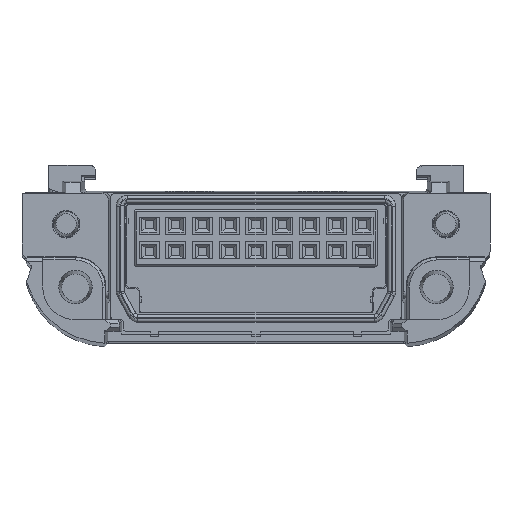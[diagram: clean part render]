
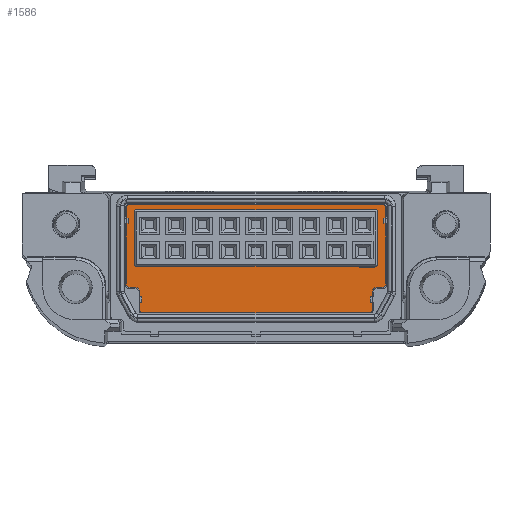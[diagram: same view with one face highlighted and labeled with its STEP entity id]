
A CAD part, top view. The second image highlights one B-rep face of the part: STEP entity #1586.
In plain terms, the highlighted planar face has unit normal (0, 0, 1) as drawn and (0, 0, -1) by its records, which use the part's own axes.
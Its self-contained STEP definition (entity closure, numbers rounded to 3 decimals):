
#1586=ADVANCED_FACE('',(#2495,#2496),#2255,.F.);
#2255=PLANE('',#13822);
#2495=FACE_BOUND('',#3100,.T.);
#2496=FACE_BOUND('',#3101,.T.);
#3100=EDGE_LOOP('',(#6142,#6143,#6144,#6145,#6146,#6147,#6148,#6149,#6150,
#6151,#6152,#6153,#6154,#6155,#6156,#6157));
#3101=EDGE_LOOP('',(#6158,#6159,#6160,#6161,#6162,#6163,#6164,#6165));
#3471=CIRCLE('',#13784,0.1);
#3472=CIRCLE('',#13786,0.1);
#3473=CIRCLE('',#13790,0.1);
#3474=CIRCLE('',#13792,0.1);
#3701=ELLIPSE('',#13814,0.3,0.3);
#3702=ELLIPSE('',#13815,0.3,0.3);
#3703=ELLIPSE('',#13816,0.3,0.3);
#3704=ELLIPSE('',#13817,0.3,0.3);
#3705=ELLIPSE('',#13818,0.3,0.3);
#3706=ELLIPSE('',#13819,0.3,0.3);
#3707=ELLIPSE('',#13820,0.3,0.3);
#3708=ELLIPSE('',#13821,0.3,0.3);
#6142=ORIENTED_EDGE('',*,*,#9902,.T.);
#6143=ORIENTED_EDGE('',*,*,#9903,.T.);
#6144=ORIENTED_EDGE('',*,*,#9904,.T.);
#6145=ORIENTED_EDGE('',*,*,#9905,.T.);
#6146=ORIENTED_EDGE('',*,*,#9906,.T.);
#6147=ORIENTED_EDGE('',*,*,#9907,.T.);
#6148=ORIENTED_EDGE('',*,*,#9908,.T.);
#6149=ORIENTED_EDGE('',*,*,#9909,.T.);
#6150=ORIENTED_EDGE('',*,*,#9910,.T.);
#6151=ORIENTED_EDGE('',*,*,#9911,.T.);
#6152=ORIENTED_EDGE('',*,*,#9912,.T.);
#6153=ORIENTED_EDGE('',*,*,#9913,.T.);
#6154=ORIENTED_EDGE('',*,*,#9914,.T.);
#6155=ORIENTED_EDGE('',*,*,#9915,.T.);
#6156=ORIENTED_EDGE('',*,*,#9916,.T.);
#6157=ORIENTED_EDGE('',*,*,#9917,.T.);
#6158=ORIENTED_EDGE('',*,*,#9898,.T.);
#6159=ORIENTED_EDGE('',*,*,#9894,.T.);
#6160=ORIENTED_EDGE('',*,*,#9897,.T.);
#6161=ORIENTED_EDGE('',*,*,#9900,.T.);
#6162=ORIENTED_EDGE('',*,*,#9890,.T.);
#6163=ORIENTED_EDGE('',*,*,#9892,.T.);
#6164=ORIENTED_EDGE('',*,*,#9887,.T.);
#6165=ORIENTED_EDGE('',*,*,#9901,.T.);
#8297=VERTEX_POINT('',#21041);
#8298=VERTEX_POINT('',#21043);
#8299=VERTEX_POINT('',#21047);
#8300=VERTEX_POINT('',#21049);
#8301=VERTEX_POINT('',#21055);
#8302=VERTEX_POINT('',#21057);
#8303=VERTEX_POINT('',#21061);
#8304=VERTEX_POINT('',#21065);
#8305=VERTEX_POINT('',#21091);
#8306=VERTEX_POINT('',#21092);
#8307=VERTEX_POINT('',#21094);
#8308=VERTEX_POINT('',#21096);
#8309=VERTEX_POINT('',#21098);
#8310=VERTEX_POINT('',#21100);
#8311=VERTEX_POINT('',#21102);
#8312=VERTEX_POINT('',#21104);
#8313=VERTEX_POINT('',#21106);
#8314=VERTEX_POINT('',#21108);
#8315=VERTEX_POINT('',#21110);
#8316=VERTEX_POINT('',#21112);
#8317=VERTEX_POINT('',#21114);
#8318=VERTEX_POINT('',#21116);
#8319=VERTEX_POINT('',#21118);
#8320=VERTEX_POINT('',#21120);
#9887=EDGE_CURVE('',#8298,#8297,#3471,.T.);
#9890=EDGE_CURVE('',#8300,#8299,#3472,.T.);
#9892=EDGE_CURVE('',#8299,#8298,#11489,.T.);
#9894=EDGE_CURVE('',#8302,#8301,#11491,.T.);
#9897=EDGE_CURVE('',#8301,#8303,#3473,.T.);
#9898=EDGE_CURVE('',#8304,#8302,#3474,.T.);
#9900=EDGE_CURVE('',#8303,#8300,#11495,.T.);
#9901=EDGE_CURVE('',#8297,#8304,#11496,.T.);
#9902=EDGE_CURVE('',#8305,#8306,#11497,.T.);
#9903=EDGE_CURVE('',#8306,#8307,#3701,.T.);
#9904=EDGE_CURVE('',#8307,#8308,#11498,.T.);
#9905=EDGE_CURVE('',#8308,#8309,#3702,.T.);
#9906=EDGE_CURVE('',#8309,#8310,#11499,.T.);
#9907=EDGE_CURVE('',#8310,#8311,#3703,.T.);
#9908=EDGE_CURVE('',#8311,#8312,#11500,.T.);
#9909=EDGE_CURVE('',#8312,#8313,#3704,.T.);
#9910=EDGE_CURVE('',#8313,#8314,#11501,.T.);
#9911=EDGE_CURVE('',#8314,#8315,#3705,.T.);
#9912=EDGE_CURVE('',#8315,#8316,#11502,.T.);
#9913=EDGE_CURVE('',#8316,#8317,#3706,.T.);
#9914=EDGE_CURVE('',#8317,#8318,#11503,.T.);
#9915=EDGE_CURVE('',#8318,#8319,#3707,.T.);
#9916=EDGE_CURVE('',#8319,#8320,#11504,.T.);
#9917=EDGE_CURVE('',#8320,#8305,#3708,.T.);
#11489=LINE('',#21052,#12865);
#11491=LINE('',#21056,#12867);
#11495=LINE('',#21068,#12871);
#11496=LINE('',#21070,#12872);
#11497=LINE('',#21090,#12873);
#11498=LINE('',#21095,#12874);
#11499=LINE('',#21099,#12875);
#11500=LINE('',#21103,#12876);
#11501=LINE('',#21107,#12877);
#11502=LINE('',#21111,#12878);
#11503=LINE('',#21115,#12879);
#11504=LINE('',#21119,#12880);
#12865=VECTOR('',#16498,1.);
#12867=VECTOR('',#16502,1.);
#12871=VECTOR('',#16516,1.);
#12872=VECTOR('',#16519,1.);
#12873=VECTOR('',#16558,1.);
#12874=VECTOR('',#16561,1.);
#12875=VECTOR('',#16564,1.);
#12876=VECTOR('',#16567,1.);
#12877=VECTOR('',#16570,1.);
#12878=VECTOR('',#16573,1.);
#12879=VECTOR('',#16576,1.);
#12880=VECTOR('',#16579,1.);
#13784=AXIS2_PLACEMENT_3D('',#21042,#16487,#16488);
#13786=AXIS2_PLACEMENT_3D('',#21048,#16493,#16494);
#13790=AXIS2_PLACEMENT_3D('',#21062,#16507,#16508);
#13792=AXIS2_PLACEMENT_3D('',#21064,#16511,#16512);
#13814=AXIS2_PLACEMENT_3D('',#21093,#16559,#16560);
#13815=AXIS2_PLACEMENT_3D('',#21097,#16562,#16563);
#13816=AXIS2_PLACEMENT_3D('',#21101,#16565,#16566);
#13817=AXIS2_PLACEMENT_3D('',#21105,#16568,#16569);
#13818=AXIS2_PLACEMENT_3D('',#21109,#16571,#16572);
#13819=AXIS2_PLACEMENT_3D('',#21113,#16574,#16575);
#13820=AXIS2_PLACEMENT_3D('',#21117,#16577,#16578);
#13821=AXIS2_PLACEMENT_3D('',#21121,#16580,#16581);
#13822=AXIS2_PLACEMENT_3D('',#21122,#16582,#16583);
#16487=DIRECTION('',(0.,0.,1.));
#16488=DIRECTION('',(-1.,0.,0.));
#16493=DIRECTION('',(0.,0.,1.));
#16494=DIRECTION('',(-1.,0.,0.));
#16498=DIRECTION('',(-1.,0.,0.));
#16502=DIRECTION('',(1.,0.,0.));
#16507=DIRECTION('',(0.,0.,1.));
#16508=DIRECTION('',(-1.,0.,0.));
#16511=DIRECTION('',(0.,0.,1.));
#16512=DIRECTION('',(-1.,0.,0.));
#16516=DIRECTION('',(0.,1.,0.));
#16519=DIRECTION('',(0.,-1.,0.));
#16558=DIRECTION('',(1.,0.,0.));
#16559=DIRECTION('',(0.,0.,-1.));
#16560=DIRECTION('',(0.707,0.707,0.));
#16561=DIRECTION('',(0.,-1.,0.));
#16562=DIRECTION('',(0.,0.,-1.));
#16563=DIRECTION('',(0.707,-0.707,0.));
#16564=DIRECTION('',(-1.,0.,0.));
#16565=DIRECTION('',(0.,0.,1.));
#16566=DIRECTION('',(-0.707,0.707,0.));
#16567=DIRECTION('',(0.,-1.,0.));
#16568=DIRECTION('',(0.,0.,-1.));
#16569=DIRECTION('',(0.707,-0.707,0.));
#16570=DIRECTION('',(-1.,0.,0.));
#16571=DIRECTION('',(0.,0.,-1.));
#16572=DIRECTION('',(-0.707,-0.707,0.));
#16573=DIRECTION('',(0.,1.,0.));
#16574=DIRECTION('',(0.,0.,1.));
#16575=DIRECTION('',(0.707,0.707,0.));
#16576=DIRECTION('',(-1.,0.,0.));
#16577=DIRECTION('',(0.,0.,-1.));
#16578=DIRECTION('',(-0.707,-0.707,0.));
#16579=DIRECTION('',(0.,1.,0.));
#16580=DIRECTION('',(0.,0.,-1.));
#16581=DIRECTION('',(-0.707,0.707,0.));
#16582=DIRECTION('',(0.,0.,1.));
#16583=DIRECTION('',(1.,0.,0.));
#21041=CARTESIAN_POINT('',(-26.6,10.,-1.3));
#21042=CARTESIAN_POINT('',(-26.5,10.,-1.3));
#21043=CARTESIAN_POINT('',(-26.5,10.1,-1.3));
#21047=CARTESIAN_POINT('',(-8.5,10.1,-1.3));
#21048=CARTESIAN_POINT('',(-8.5,10.,-1.3));
#21049=CARTESIAN_POINT('',(-8.4,10.,-1.3));
#21052=CARTESIAN_POINT('',(-8.5,10.1,-1.3));
#21055=CARTESIAN_POINT('',(-8.5,5.9,-1.3));
#21056=CARTESIAN_POINT('',(-26.5,5.9,-1.3));
#21057=CARTESIAN_POINT('',(-26.5,5.9,-1.3));
#21061=CARTESIAN_POINT('',(-8.4,6.,-1.3));
#21062=CARTESIAN_POINT('',(-8.5,6.,-1.3));
#21064=CARTESIAN_POINT('',(-26.5,6.,-1.3));
#21065=CARTESIAN_POINT('',(-26.6,6.,-1.3));
#21068=CARTESIAN_POINT('',(-8.4,6.,-1.3));
#21070=CARTESIAN_POINT('',(-26.6,10.,-1.3));
#21090=CARTESIAN_POINT('',(-17.5,10.5,-1.3));
#21091=CARTESIAN_POINT('',(-26.9,10.5,-1.3));
#21092=CARTESIAN_POINT('',(-8.1,10.5,-1.3));
#21093=CARTESIAN_POINT('',(-8.1,10.2,-1.3));
#21094=CARTESIAN_POINT('',(-7.8,10.2,-1.3));
#21095=CARTESIAN_POINT('',(-7.8,6.45,-1.3));
#21096=CARTESIAN_POINT('',(-7.8,4.6,-1.3));
#21097=CARTESIAN_POINT('',(-8.1,4.6,-1.3));
#21098=CARTESIAN_POINT('',(-8.1,4.3,-1.3));
#21099=CARTESIAN_POINT('',(-17.5,4.3,-1.3));
#21100=CARTESIAN_POINT('',(-8.5,4.3,-1.3));
#21101=CARTESIAN_POINT('',(-8.5,4.,-1.3));
#21102=CARTESIAN_POINT('',(-8.8,4.,-1.3));
#21103=CARTESIAN_POINT('',(-8.8,6.45,-1.3));
#21104=CARTESIAN_POINT('',(-8.8,2.7,-1.3));
#21105=CARTESIAN_POINT('',(-9.1,2.7,-1.3));
#21106=CARTESIAN_POINT('',(-9.1,2.4,-1.3));
#21107=CARTESIAN_POINT('',(-17.5,2.4,-1.3));
#21108=CARTESIAN_POINT('',(-25.9,2.4,-1.3));
#21109=CARTESIAN_POINT('',(-25.9,2.7,-1.3));
#21110=CARTESIAN_POINT('',(-26.2,2.7,-1.3));
#21111=CARTESIAN_POINT('',(-26.2,6.45,-1.3));
#21112=CARTESIAN_POINT('',(-26.2,4.,-1.3));
#21113=CARTESIAN_POINT('',(-26.5,4.,-1.3));
#21114=CARTESIAN_POINT('',(-26.5,4.3,-1.3));
#21115=CARTESIAN_POINT('',(-17.5,4.3,-1.3));
#21116=CARTESIAN_POINT('',(-26.9,4.3,-1.3));
#21117=CARTESIAN_POINT('',(-26.9,4.6,-1.3));
#21118=CARTESIAN_POINT('',(-27.2,4.6,-1.3));
#21119=CARTESIAN_POINT('',(-27.2,6.,-1.3));
#21120=CARTESIAN_POINT('',(-27.2,10.2,-1.3));
#21121=CARTESIAN_POINT('',(-26.9,10.2,-1.3));
#21122=CARTESIAN_POINT('',(-26.5,6.,-1.3));
